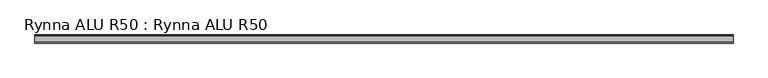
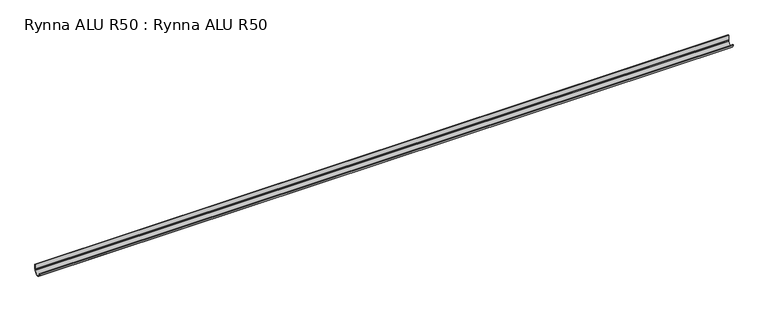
"""IFC4 building model written with IfcOpenShell, lengths in millimetres: proxy geometry, Rynna ALU R50 : Rynna ALU R50."""

from ifc_helpers import new_model, si_unit, point, frame, frame_2d, origin, place, context, project, spatial, polyline, circle_curve, trimmed, segment, composite_curve, outline, extrude, source, transform, mapped, element, save


def rynna_alu_r50_rynna_alu_r50_503b632a(model_context):
    return source(origin(), model_context, "Body", "SweptSolid", [
        extrude(outline(composite_curve([segment(polyline([(0.6978396, -5.5427289), (0.6978396, -39.5252625), (-1.8149767, -41.8701356), (-2.328284, -45.5225054), (0.9565767, -44.1281649), (0.1767814, -46.0765907), (-2.6292486, -47.6619658)]), True, "CONTINUOUS"), segment(trimmed(circle_curve(frame_2d((-27.3646611, -44.302303)), 24.9625312), [point((-2.6292486, -47.6619658))], [point((-52.3271923, -44.302303))], False, "CARTESIAN"), True, "CONTINUOUS"), segment(trimmed(circle_curve(frame_2d((-50.3771937, -44.3000011)), 1.95), [point((-52.3271923, -44.302303))], [point((-50.8512717, -46.1914952))], False, "CARTESIAN"), True, "CONTINUOUS"), segment(trimmed(circle_curve(frame_2d((-27.3646611, -44.302303)), 23.5624686), [point((-50.8512717, -46.1914952))], [point((-3.9370468, -46.8196069))], True, "CARTESIAN"), True, "CONTINUOUS"), segment(polyline([(-3.9370468, -46.8196069), (-3.0707013, -41.065916), (-0.7021617, -38.7702547), (-0.7021617, -5.5427289), (0.6978396, -5.5427289)]), True, "CONTINUOUS")], self_intersect=False)), frame((-2279.9290906, 0.0, 0.0), z_axis=(1.0, 0.0, 0.0), x_axis=(0.0, 1.0, 0.0)), (0.0, 0.0, 1.0), 4559.8581812),
    ])


if __name__ == "__main__":
    model = new_model("IFC4")
    model_context = context("Model", 3, world=origin())
    ifc_project = project(units=[si_unit("LENGTHUNIT", "METRE", prefix="MILLI")], contexts=[model_context])
    site = spatial("IfcSite", under=ifc_project)
    building = spatial("IfcBuilding", under=site)
    placement = place(None, origin())
    rynna_alu_r50_rynna_alu_r50_shape = rynna_alu_r50_rynna_alu_r50_503b632a(model_context)
    element("IfcBuildingElementProxy", 1, Name="Rynna ALU R50 : Rynna ALU R50", ObjectType="Rynna ALU R50 : Rynna ALU R50", at=placement, inside=building, context=model_context, shape_type="MappedRepresentation", body=[
        mapped(rynna_alu_r50_rynna_alu_r50_shape, transform((0.0, 0.0, 0.0), x_axis=(1.0, 0.0, 0.0), y_axis=(0.0, 1.0, 0.0), z_axis=(0.0, 0.0, 1.0))),
    ])
    save(model, "model.ifc")
